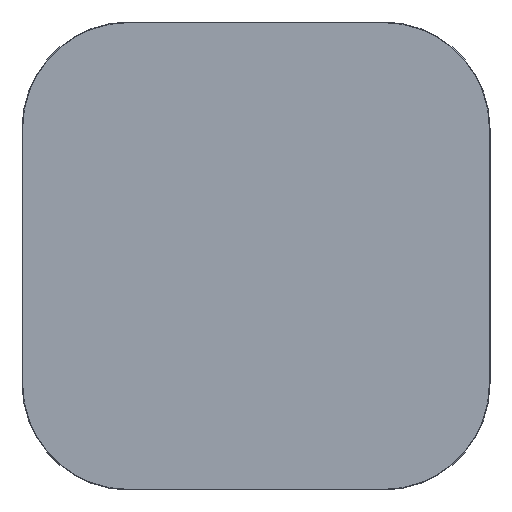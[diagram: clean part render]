
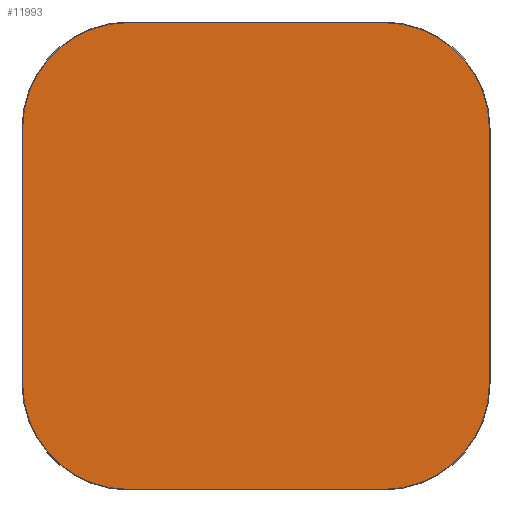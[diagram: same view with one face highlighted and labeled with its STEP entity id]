
A CAD part, top view. The second image highlights one B-rep face of the part: STEP entity #11993.
In plain terms, the highlighted planar face has unit normal (0, 0, 1).
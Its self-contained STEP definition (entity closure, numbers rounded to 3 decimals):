
#11918=CARTESIAN_POINT('',(0.,0.,20.));
#11919=DIRECTION('',(1.,0.,0.));
#11920=DIRECTION('',(0.,0.,1.));
#11921=AXIS2_PLACEMENT_3D('',#11918,#11920,#11919);
#11922=PLANE('',#11921);
#11923=CARTESIAN_POINT('',(-300.,-548.5,20.));
#11924=VERTEX_POINT('',#11923);
#11925=CARTESIAN_POINT('',(300.,-548.5,20.));
#11926=VERTEX_POINT('',#11925);
#11927=CARTESIAN_POINT('',(-300.,-548.5,20.));
#11928=DIRECTION('',(1.,0.,0.));
#11929=VECTOR('',#11928,600.);
#11930=LINE('',#11927,#11929);
#11931=EDGE_CURVE('',#11924,#11926,#11930,.T.);
#11932=ORIENTED_EDGE('E105',*,*,#11931,.T.);
#11933=CARTESIAN_POINT('',(548.5,-300.,20.));
#11934=VERTEX_POINT('',#11933);
#11935=CARTESIAN_POINT('',(300.,-300.,20.));
#11936=DIRECTION('',(0.,-1.,0.));
#11937=DIRECTION('',(0.,-0.,1.));
#11938=AXIS2_PLACEMENT_3D('',#11935,#11937,#11936);
#11939=CIRCLE('',#11938,248.5);
#11940=EDGE_CURVE('',#11926,#11934,#11939,.T.);
#11941=ORIENTED_EDGE('E107',*,*,#11940,.T.);
#11942=CARTESIAN_POINT('',(548.5,300.,20.));
#11943=VERTEX_POINT('',#11942);
#11944=CARTESIAN_POINT('',(548.5,-300.,20.));
#11945=DIRECTION('',(0.,1.,0.));
#11946=VECTOR('',#11945,600.);
#11947=LINE('',#11944,#11946);
#11948=EDGE_CURVE('',#11934,#11943,#11947,.T.);
#11949=ORIENTED_EDGE('E109',*,*,#11948,.T.);
#11950=CARTESIAN_POINT('',(300.,548.5,20.));
#11951=VERTEX_POINT('',#11950);
#11952=CARTESIAN_POINT('',(300.,300.,20.));
#11953=DIRECTION('',(1.,0.,0.));
#11954=DIRECTION('',(0.,0.,1.));
#11955=AXIS2_PLACEMENT_3D('',#11952,#11954,#11953);
#11956=CIRCLE('',#11955,248.5);
#11957=EDGE_CURVE('',#11943,#11951,#11956,.T.);
#11958=ORIENTED_EDGE('E111',*,*,#11957,.T.);
#11959=CARTESIAN_POINT('',(-300.,548.5,20.));
#11960=VERTEX_POINT('',#11959);
#11961=CARTESIAN_POINT('',(300.,548.5,20.));
#11962=DIRECTION('',(-1.,0.,0.));
#11963=VECTOR('',#11962,600.);
#11964=LINE('',#11961,#11963);
#11965=EDGE_CURVE('',#11951,#11960,#11964,.T.);
#11966=ORIENTED_EDGE('E113',*,*,#11965,.T.);
#11967=CARTESIAN_POINT('',(-548.5,300.,20.));
#11968=VERTEX_POINT('',#11967);
#11969=CARTESIAN_POINT('',(-300.,300.,20.));
#11970=DIRECTION('',(0.,1.,0.));
#11971=DIRECTION('',(0.,0.,1.));
#11972=AXIS2_PLACEMENT_3D('',#11969,#11971,#11970);
#11973=CIRCLE('',#11972,248.5);
#11974=EDGE_CURVE('',#11960,#11968,#11973,.T.);
#11975=ORIENTED_EDGE('E115',*,*,#11974,.T.);
#11976=CARTESIAN_POINT('',(-548.5,-300.,20.));
#11977=VERTEX_POINT('',#11976);
#11978=CARTESIAN_POINT('',(-548.5,300.,20.));
#11979=DIRECTION('',(0.,-1.,0.));
#11980=VECTOR('',#11979,600.);
#11981=LINE('',#11978,#11980);
#11982=EDGE_CURVE('',#11968,#11977,#11981,.T.);
#11983=ORIENTED_EDGE('E117',*,*,#11982,.T.);
#11984=CARTESIAN_POINT('',(-300.,-300.,20.));
#11985=DIRECTION('',(-1.,0.,0.));
#11986=DIRECTION('',(0.,0.,1.));
#11987=AXIS2_PLACEMENT_3D('',#11984,#11986,#11985);
#11988=CIRCLE('',#11987,248.5);
#11989=EDGE_CURVE('',#11977,#11924,#11988,.T.);
#11990=ORIENTED_EDGE('E119',*,*,#11989,.T.);
#11991=EDGE_LOOP('',(#11932,#11941,#11949,#11958,#11966,#11975,#11983,#11990));
#11992=FACE_OUTER_BOUND('',#11991,.T.);
#11993=ADVANCED_FACE('F2',(#11992),#11922,.T.);
